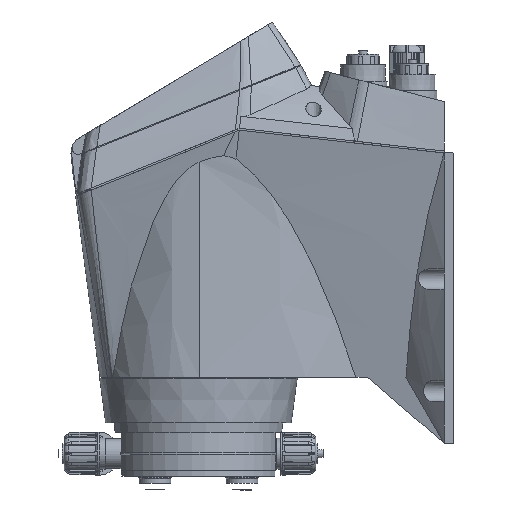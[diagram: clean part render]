
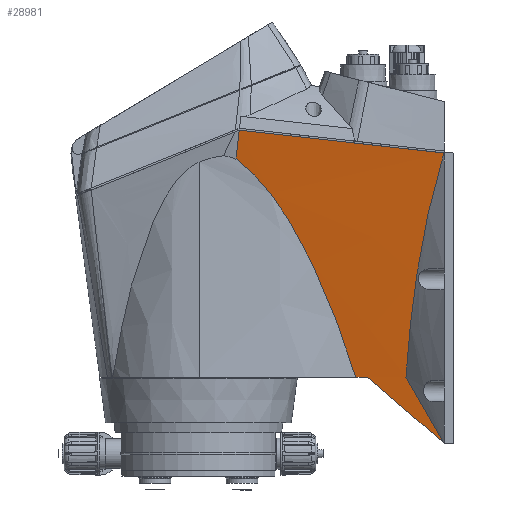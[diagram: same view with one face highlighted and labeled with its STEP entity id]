
A CAD part, left-side view. The second image highlights one B-rep face of the part: STEP entity #28981.
In plain terms, the highlighted free-form (B-spline) face has degree [3, 3] with [4, 4] control points.
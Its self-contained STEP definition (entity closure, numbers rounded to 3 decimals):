
#123=B_SPLINE_SURFACE_WITH_KNOTS('',3,3,((#57999,#58000,#58001,#58002),
(#58003,#58004,#58005,#58006),(#58007,#58008,#58009,#58010),(#58011,#58012,
#58013,#58014)),.UNSPECIFIED.,.F.,.F.,.F.,(4,4),(4,4),(0.,
1.),(0.003,1.),.UNSPECIFIED.);
#2909=FACE_OUTER_BOUND('',#4645,.T.);
#4645=EDGE_LOOP('',(#24585,#24586,#24587,#24588,#24589,#24590,#24591,#24592));
#5677=B_SPLINE_CURVE_WITH_KNOTS('',3,(#57924,#57925,#57926,#57927,#57928,
#57929,#57930),.UNSPECIFIED.,.F.,.F.,(4,3,4),(-20.137,-17.457,
-14.716),.UNSPECIFIED.);
#5679=B_SPLINE_CURVE_WITH_KNOTS('',3,(#57992,#57993,#57994,#57995,#57996,
#57997,#57998),.UNSPECIFIED.,.F.,.F.,(4,3,4),(15.208,17.889,
19.329),.UNSPECIFIED.);
#5680=B_SPLINE_CURVE_WITH_KNOTS('',3,(#58016,#58017,#58018,#58019),
 .UNSPECIFIED.,.F.,.F.,(4,4),(11.989,12.627),
 .UNSPECIFIED.);
#5681=B_SPLINE_CURVE_WITH_KNOTS('',3,(#58021,#58022,#58023,#58024,#58025,
#58026,#58027,#58028),.UNSPECIFIED.,.F.,.F.,(4,2,2,4),(0.,4.143,
7.89,12.416),.UNSPECIFIED.);
#5682=B_SPLINE_CURVE_WITH_KNOTS('',3,(#58030,#58031,#58032,#58033,#58034,
#58035,#58036,#58037,#58038,#58039,#58040,#58041,#58042,#58043,#58044,#58045,
#58046,#58047,#58048,#58049,#58050,#58051),.UNSPECIFIED.,.F.,.F.,(4,3,3,
3,3,3,3,4),(-11.027,-8.274,-6.208,-5.821,
-5.64,-5.53,-5.489,-0.013),
 .UNSPECIFIED.);
#5683=B_SPLINE_CURVE_WITH_KNOTS('',3,(#58053,#58054,#58055,#58056),
 .UNSPECIFIED.,.F.,.F.,(4,4),(-0.014,0.),.UNSPECIFIED.);
#5684=B_SPLINE_CURVE_WITH_KNOTS('',3,(#58059,#58060,#58061,#58062,#58063,
#58064,#58065,#58066),.UNSPECIFIED.,.F.,.F.,(4,2,2,4),(-15.848,
-12.706,-7.038,-2.511),.UNSPECIFIED.);
#8796=LINE('',#58058,#11024);
#11024=VECTOR('',#37237,13.927);
#13500=VERTEX_POINT('',#57921);
#13501=VERTEX_POINT('',#57923);
#13519=VERTEX_POINT('',#57985);
#13520=VERTEX_POINT('',#58015);
#13521=VERTEX_POINT('',#58020);
#13522=VERTEX_POINT('',#58029);
#13523=VERTEX_POINT('',#58052);
#13524=VERTEX_POINT('',#58057);
#17363=EDGE_CURVE('',#13501,#13500,#5677,.F.);
#17391=EDGE_CURVE('',#13500,#13519,#5679,.F.);
#17392=EDGE_CURVE('',#13520,#13501,#5680,.T.);
#17393=EDGE_CURVE('',#13519,#13521,#5681,.T.);
#17394=EDGE_CURVE('',#13521,#13522,#5682,.T.);
#17395=EDGE_CURVE('',#13522,#13523,#5683,.T.);
#17396=EDGE_CURVE('',#13523,#13524,#8796,.T.);
#17397=EDGE_CURVE('',#13520,#13524,#5684,.F.);
#24585=ORIENTED_EDGE('',*,*,#17392,.T.);
#24586=ORIENTED_EDGE('',*,*,#17363,.T.);
#24587=ORIENTED_EDGE('',*,*,#17391,.T.);
#24588=ORIENTED_EDGE('',*,*,#17393,.T.);
#24589=ORIENTED_EDGE('',*,*,#17394,.T.);
#24590=ORIENTED_EDGE('',*,*,#17395,.T.);
#24591=ORIENTED_EDGE('',*,*,#17396,.T.);
#24592=ORIENTED_EDGE('',*,*,#17397,.F.);
#28981=ADVANCED_FACE('',(#2909),#123,.T.);
#37237=DIRECTION('',(0.215,0.107,-0.971));
#57921=CARTESIAN_POINT('',(-26.568,-131.729,-35.5));
#57923=CARTESIAN_POINT('',(-31.869,-90.729,0.));
#57924=CARTESIAN_POINT('Ctrl Pts',(-26.568,-131.729,
-35.5));
#57925=CARTESIAN_POINT('Ctrl Pts',(-27.415,-125.009,
-29.682));
#57926=CARTESIAN_POINT('Ctrl Pts',(-28.275,-118.263,
-23.84));
#57927=CARTESIAN_POINT('Ctrl Pts',(-29.149,-111.503,
-17.987));
#57928=CARTESIAN_POINT('Ctrl Pts',(-30.042,-104.588,
-11.999));
#57929=CARTESIAN_POINT('Ctrl Pts',(-30.949,-97.659,
-6.));
#57930=CARTESIAN_POINT('Ctrl Pts',(-31.869,-90.729,
0.));
#57985=CARTESIAN_POINT('',(-32.734,-111.232,0.));
#57992=CARTESIAN_POINT('Ctrl Pts',(-32.734,-111.232,
0.));
#57993=CARTESIAN_POINT('Ctrl Pts',(-31.372,-115.697,-7.733));
#57994=CARTESIAN_POINT('Ctrl Pts',(-30.026,-120.153,-15.451));
#57995=CARTESIAN_POINT('Ctrl Pts',(-28.696,-124.592,
-23.138));
#57996=CARTESIAN_POINT('Ctrl Pts',(-27.982,-126.977,
-27.269));
#57997=CARTESIAN_POINT('Ctrl Pts',(-27.273,-129.356,
-31.39));
#57998=CARTESIAN_POINT('Ctrl Pts',(-26.568,-131.729,
-35.5));
#57999=CARTESIAN_POINT('Ctrl Pts',(-57.271,-131.729,
120.19));
#58000=CARTESIAN_POINT('Ctrl Pts',(-47.037,-131.729,68.293));
#58001=CARTESIAN_POINT('Ctrl Pts',(-36.803,-131.729,
16.397));
#58002=CARTESIAN_POINT('Ctrl Pts',(-26.568,-131.729,
-35.5));
#58003=CARTESIAN_POINT('Ctrl Pts',(-57.273,-95.106,
124.288));
#58004=CARTESIAN_POINT('Ctrl Pts',(-47.197,-93.481,
74.97));
#58005=CARTESIAN_POINT('Ctrl Pts',(-37.121,-91.856,
25.652));
#58006=CARTESIAN_POINT('Ctrl Pts',(-27.045,-90.231,
-23.667));
#58007=CARTESIAN_POINT('Ctrl Pts',(-57.274,-58.483,
128.387));
#58008=CARTESIAN_POINT('Ctrl Pts',(-47.357,-55.233,
81.647));
#58009=CARTESIAN_POINT('Ctrl Pts',(-37.44,-51.982,
34.907));
#58010=CARTESIAN_POINT('Ctrl Pts',(-27.523,-48.732,
-11.833));
#58011=CARTESIAN_POINT('Ctrl Pts',(-57.276,-21.86,
132.486));
#58012=CARTESIAN_POINT('Ctrl Pts',(-47.517,-16.984,
88.324));
#58013=CARTESIAN_POINT('Ctrl Pts',(-37.759,-12.109,
44.162));
#58014=CARTESIAN_POINT('Ctrl Pts',(-28.,-7.233,0.));
#58015=CARTESIAN_POINT('',(-31.593,-84.351,0.));
#58016=CARTESIAN_POINT('Ctrl Pts',(-31.593,-84.351,
0.));
#58017=CARTESIAN_POINT('Ctrl Pts',(-31.685,-86.477,0.));
#58018=CARTESIAN_POINT('Ctrl Pts',(-31.777,-88.603,
0.));
#58019=CARTESIAN_POINT('Ctrl Pts',(-31.869,-90.729,
0.));
#58020=CARTESIAN_POINT('',(-57.271,-131.587,120.205));
#58021=CARTESIAN_POINT('Ctrl Pts',(-32.734,-111.232,
0.));
#58022=CARTESIAN_POINT('Ctrl Pts',(-35.474,-112.174,
13.502));
#58023=CARTESIAN_POINT('Ctrl Pts',(-38.275,-113.397,
27.27));
#58024=CARTESIAN_POINT('Ctrl Pts',(-43.538,-116.607,53.063));
#58025=CARTESIAN_POINT('Ctrl Pts',(-45.983,-118.493,
65.015));
#58026=CARTESIAN_POINT('Ctrl Pts',(-51.477,-123.868,
91.84));
#58027=CARTESIAN_POINT('Ctrl Pts',(-54.363,-127.437,
105.923));
#58028=CARTESIAN_POINT('Ctrl Pts',(-57.271,-131.587,
120.205));
#58029=CARTESIAN_POINT('',(-57.261,-21.977,132.403));
#58030=CARTESIAN_POINT('Ctrl Pts',(-57.271,-131.587,
120.205));
#58031=CARTESIAN_POINT('Ctrl Pts',(-57.27,-122.467,121.22));
#58032=CARTESIAN_POINT('Ctrl Pts',(-57.27,-113.329,122.237));
#58033=CARTESIAN_POINT('Ctrl Pts',(-57.269,-104.191,
123.254));
#58034=CARTESIAN_POINT('Ctrl Pts',(-57.268,-97.337,
124.017));
#58035=CARTESIAN_POINT('Ctrl Pts',(-57.268,-90.483,
124.78));
#58036=CARTESIAN_POINT('Ctrl Pts',(-57.267,-83.636,
125.542));
#58037=CARTESIAN_POINT('Ctrl Pts',(-57.267,-82.352,
125.684));
#58038=CARTESIAN_POINT('Ctrl Pts',(-57.267,-81.069,
125.827));
#58039=CARTESIAN_POINT('Ctrl Pts',(-57.267,-79.786,
125.97));
#58040=CARTESIAN_POINT('Ctrl Pts',(-57.267,-79.184,
126.037));
#58041=CARTESIAN_POINT('Ctrl Pts',(-57.266,-78.583,
126.104));
#58042=CARTESIAN_POINT('Ctrl Pts',(-57.266,-77.982,
126.171));
#58043=CARTESIAN_POINT('Ctrl Pts',(-57.266,-77.618,
126.211));
#58044=CARTESIAN_POINT('Ctrl Pts',(-57.266,-77.255,
126.252));
#58045=CARTESIAN_POINT('Ctrl Pts',(-57.266,-76.891,
126.292));
#58046=CARTESIAN_POINT('Ctrl Pts',(-57.266,-76.757,
126.307));
#58047=CARTESIAN_POINT('Ctrl Pts',(-57.266,-76.622,
126.322));
#58048=CARTESIAN_POINT('Ctrl Pts',(-57.266,-76.488,126.337));
#58049=CARTESIAN_POINT('Ctrl Pts',(-57.265,-58.346,
128.356));
#58050=CARTESIAN_POINT('Ctrl Pts',(-57.263,-40.122,
130.384));
#58051=CARTESIAN_POINT('Ctrl Pts',(-57.261,-21.977,
132.403));
#58052=CARTESIAN_POINT('',(-57.246,-21.845,132.35));
#58053=CARTESIAN_POINT('Ctrl Pts',(-57.261,-21.977,
132.403));
#58054=CARTESIAN_POINT('Ctrl Pts',(-57.256,-21.933,
132.385));
#58055=CARTESIAN_POINT('Ctrl Pts',(-57.251,-21.889,
132.368));
#58056=CARTESIAN_POINT('Ctrl Pts',(-57.246,-21.845,
132.35));
#58057=CARTESIAN_POINT('',(-53.836,-20.141,116.919));
#58058=CARTESIAN_POINT('',(-57.37,-21.907,132.914));
#58059=CARTESIAN_POINT('Ctrl Pts',(-53.836,-20.141,116.919));
#58060=CARTESIAN_POINT('Ctrl Pts',(-52.745,-28.643,
110.827));
#58061=CARTESIAN_POINT('Ctrl Pts',(-51.144,-35.967,
102.388));
#58062=CARTESIAN_POINT('Ctrl Pts',(-46.627,-52.851,
78.687));
#58063=CARTESIAN_POINT('Ctrl Pts',(-43.038,-61.876,
60.005));
#58064=CARTESIAN_POINT('Ctrl Pts',(-37.121,-74.62,
29.045));
#58065=CARTESIAN_POINT('Ctrl Pts',(-34.353,-79.746,
14.523));
#58066=CARTESIAN_POINT('Ctrl Pts',(-31.593,-84.351,
0.));
